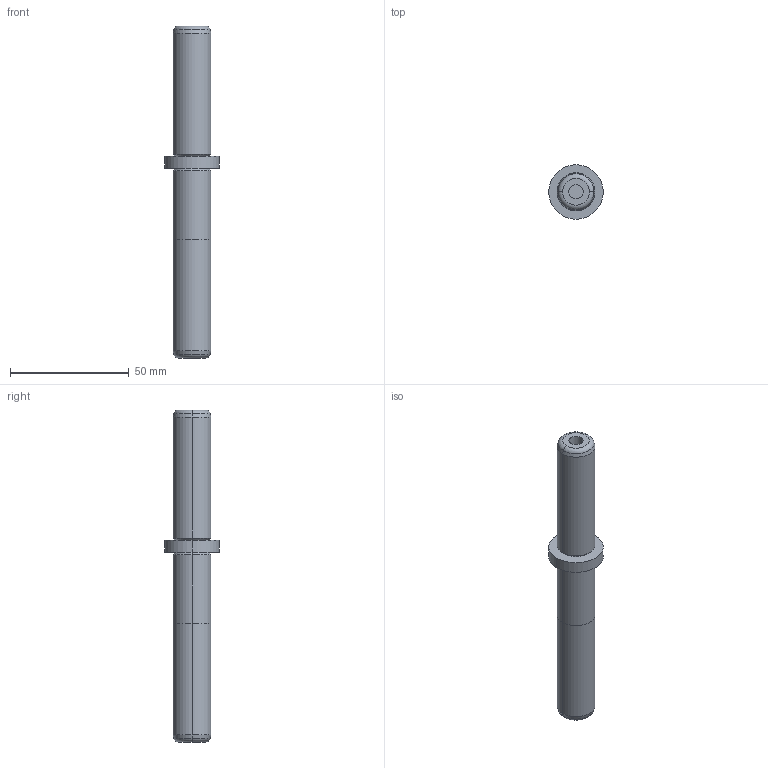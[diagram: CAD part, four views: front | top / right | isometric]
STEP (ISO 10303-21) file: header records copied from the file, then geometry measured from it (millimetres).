
FILE_DESCRIPTION(/* description */ (''),/* implementation_level */ '2;1');
FILE_NAME(/* name */ '3d_sgpwh16-80-60-b30_05310_r00.stp',/* time_stamp */ '2011-01-10T14:11:02+09:00',/* author */ ('MISUMI'),/* organization */ (''),/* preprocessor_version */ 'ST-DEVELOPER v11',/* originating_system */ 'UGS - NX 5.0',/* authorisation */ '');
FILE_SCHEMA (('CONFIG_CONTROL_DESIGN'));
Length unit declared in the file: millimetre
Products named in the file (1): 3d_sgpwh16-80-60-b30_05310_r00
Bounding box: 23 x 23 x 140 mm (x, y, z)
Volume: 27602.3 mm3; surface area: 8922.7 mm2
Topology: 1 solids, 1 shells, 30 faces, 58 edges, 34 vertices
Faces by surface type: cylinder 12, cone 8, plane 6, torus 4
Entity records: 854 total; most frequent: DIRECTION 158, CARTESIAN_POINT 123, ORIENTED_EDGE 116, AXIS2_PLACEMENT_3D 69, EDGE_CURVE 58, CIRCLE 38, EDGE_LOOP 34, VERTEX_POINT 34
